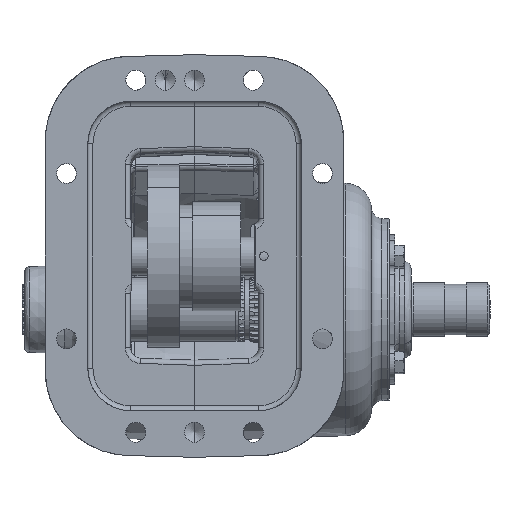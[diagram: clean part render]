
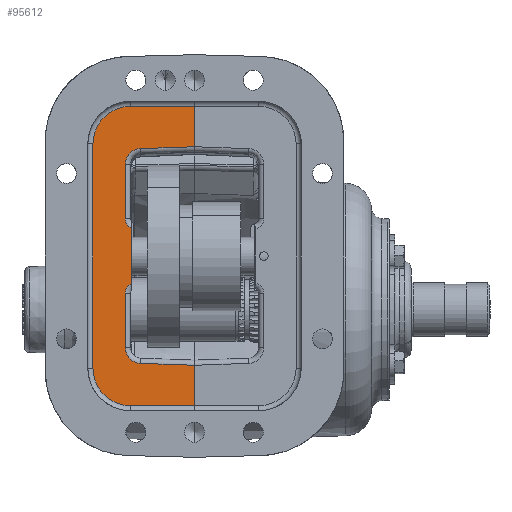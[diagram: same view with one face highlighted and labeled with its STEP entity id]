
A CAD part, front view. The second image highlights one B-rep face of the part: STEP entity #95612.
In plain terms, the highlighted planar face has unit normal (0, -1, 0).
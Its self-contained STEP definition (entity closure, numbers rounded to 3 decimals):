
#5700 = VERTEX_POINT ( 'NONE', #131187 ) ;
#5701 = VERTEX_POINT ( 'NONE', #131188 ) ;
#5702 = VERTEX_POINT ( 'NONE', #131189 ) ;
#5703 = VERTEX_POINT ( 'NONE', #131190 ) ;
#5707 = VERTEX_POINT ( 'NONE', #131196 ) ;
#5713 = VERTEX_POINT ( 'NONE', #131202 ) ;
#5719 = VERTEX_POINT ( 'NONE', #131210 ) ;
#5724 = VERTEX_POINT ( 'NONE', #131215 ) ;
#5739 = VERTEX_POINT ( 'NONE', #131239 ) ;
#5758 = VERTEX_POINT ( 'NONE', #131268 ) ;
#5759 = VERTEX_POINT ( 'NONE', #131269 ) ;
#5762 = VERTEX_POINT ( 'NONE', #131273 ) ;
#5766 = VERTEX_POINT ( 'NONE', #131279 ) ;
#5770 = VERTEX_POINT ( 'NONE', #131284 ) ;
#6181 = VERTEX_POINT ( 'NONE', #85882 ) ;
#6196 = VERTEX_POINT ( 'NONE', #85897 ) ;
#10097 = ORIENTED_EDGE ( 'NONE', *, *, #79036, .F. ) ;
#10099 = ORIENTED_EDGE ( 'NONE', *, *, #79007, .F. ) ;
#10101 = ORIENTED_EDGE ( 'NONE', *, *, #78082, .F. ) ;
#10103 = ORIENTED_EDGE ( 'NONE', *, *, #78076, .F. ) ;
#10105 = ORIENTED_EDGE ( 'NONE', *, *, #78070, .F. ) ;
#10107 = ORIENTED_EDGE ( 'NONE', *, *, #79037, .T. ) ;
#10109 = ORIENTED_EDGE ( 'NONE', *, *, #78166, .F. ) ;
#10111 = ORIENTED_EDGE ( 'NONE', *, *, #78161, .F. ) ;
#10113 = ORIENTED_EDGE ( 'NONE', *, *, #78168, .F. ) ;
#10115 = ORIENTED_EDGE ( 'NONE', *, *, #78174, .F. ) ;
#10117 = ORIENTED_EDGE ( 'NONE', *, *, #78180, .F. ) ;
#10119 = ORIENTED_EDGE ( 'NONE', *, *, #79038, .T. ) ;
#10121 = ORIENTED_EDGE ( 'NONE', *, *, #78100, .F. ) ;
#10123 = ORIENTED_EDGE ( 'NONE', *, *, #78096, .F. ) ;
#10125 = ORIENTED_EDGE ( 'NONE', *, *, #78090, .F. ) ;
#10127 = ORIENTED_EDGE ( 'NONE', *, *, #79022, .F. ) ;
#18485 = EDGE_LOOP ( 'NONE', ( #10097, #10099, #10101, #10103, #10105, #10107, #10109, #10111, #10113, #10115, #10117, #10119, #10121, #10123, #10125, #10127 ) ) ;
#18780 = LINE ( 'NONE', #83610, #18786 ) ;
#18786 = VECTOR ( 'NONE', #83613, 1000. ) ;
#18796 = CIRCLE ( 'NONE', #40696, 9.398 ) ;
#18814 = LINE ( 'NONE', #83691, #18823 ) ;
#18823 = VECTOR ( 'NONE', #83694, 1000. ) ;
#18855 = LINE ( 'NONE', #83734, #18861 ) ;
#18861 = VECTOR ( 'NONE', #83724, 1000. ) ;
#18877 = CIRCLE ( 'NONE', #40735, 9.398 ) ;
#18892 = LINE ( 'NONE', #83819, #18901 ) ;
#18901 = VECTOR ( 'NONE', #83822, 1000. ) ;
#19018 = CIRCLE ( 'NONE', #40836, 22.352 ) ;
#19041 = LINE ( 'NONE', #81130, #19057 ) ;
#19044 = LINE ( 'NONE', #81117, #19050 ) ;
#19050 = VECTOR ( 'NONE', #81122, 1000. ) ;
#19057 = VECTOR ( 'NONE', #81077, 1000. ) ;
#19063 = CIRCLE ( 'NONE', #40861, 22.352 ) ;
#19080 = LINE ( 'NONE', #81250, #19091 ) ;
#19091 = VECTOR ( 'NONE', #81236, 1000. ) ;
#20667 = CIRCLE ( 'NONE', #42109, 6.096 ) ;
#20698 = CIRCLE ( 'NONE', #42132, 6.096 ) ;
#20715 = LINE ( 'NONE', #135136, #20732 ) ;
#20718 = LINE ( 'NONE', #135147, #20724 ) ;
#20722 = LINE ( 'NONE', #135151, #20728 ) ;
#20724 = VECTOR ( 'NONE', #135150, 1000. ) ;
#20728 = VECTOR ( 'NONE', #135155, 1000. ) ;
#20732 = VECTOR ( 'NONE', #135157, 1000. ) ;
#40696 = AXIS2_PLACEMENT_3D ( 'NONE', #83657, #83659, #83661 ) ;
#40735 = AXIS2_PLACEMENT_3D ( 'NONE', #83794, #83796, #83798 ) ;
#40836 = AXIS2_PLACEMENT_3D ( 'NONE', #81068, #81071, #81074 ) ;
#40861 = AXIS2_PLACEMENT_3D ( 'NONE', #81195, #81198, #81201 ) ;
#41442 = CARTESIAN_POINT ( 'NONE',  ( -99.29, -133.047, -95.578 ) ) ;
#41448 = PLANE ( 'NONE',  #131061 ) ;
#41452 = DIRECTION ( 'NONE',  ( 0., 1., 0. ) ) ;
#41454 = DIRECTION ( 'NONE',  ( 0., 0., -1. ) ) ;
#42109 = AXIS2_PLACEMENT_3D ( 'NONE', #134836, #134838, #134840 ) ;
#42132 = AXIS2_PLACEMENT_3D ( 'NONE', #134999, #135000, #135002 ) ;
#48747 = FACE_OUTER_BOUND ( 'NONE', #18485, .T. ) ;
#78070 = EDGE_CURVE ( 'NONE', #5700, #5701, #18780, .T. ) ;
#78076 = EDGE_CURVE ( 'NONE', #5701, #5702, #18796, .T. ) ;
#78082 = EDGE_CURVE ( 'NONE', #5702, #5703, #18814, .T. ) ;
#78090 = EDGE_CURVE ( 'NONE', #5719, #5713, #18855, .T. ) ;
#78096 = EDGE_CURVE ( 'NONE', #5713, #5707, #18877, .T. ) ;
#78100 = EDGE_CURVE ( 'NONE', #5707, #5724, #18892, .T. ) ;
#78161 = EDGE_CURVE ( 'NONE', #5739, #5758, #19018, .T. ) ;
#78166 = EDGE_CURVE ( 'NONE', #5758, #5759, #19044, .T. ) ;
#78168 = EDGE_CURVE ( 'NONE', #5762, #5739, #19041, .T. ) ;
#78174 = EDGE_CURVE ( 'NONE', #5766, #5762, #19063, .T. ) ;
#78180 = EDGE_CURVE ( 'NONE', #5770, #5766, #19080, .T. ) ;
#79007 = EDGE_CURVE ( 'NONE', #5703, #6181, #20667, .T. ) ;
#79022 = EDGE_CURVE ( 'NONE', #6196, #5719, #20698, .T. ) ;
#79036 = EDGE_CURVE ( 'NONE', #6181, #6196, #20718, .T. ) ;
#79037 = EDGE_CURVE ( 'NONE', #5700, #5759, #20722, .T. ) ;
#79038 = EDGE_CURVE ( 'NONE', #5770, #5724, #20715, .T. ) ;
#81068 = CARTESIAN_POINT ( 'NONE',  ( -48.49, -133.047, 88.572 ) ) ;
#81071 = DIRECTION ( 'NONE',  ( 0., 1., 0. ) ) ;
#81074 = DIRECTION ( 'NONE',  ( 0., 0., -1. ) ) ;
#81077 = DIRECTION ( 'NONE',  ( 0., 0., 1. ) ) ;
#81117 = CARTESIAN_POINT ( 'NONE',  ( -10.39, -133.047, 110.924 ) ) ;
#81122 = DIRECTION ( 'NONE',  ( 1., 0., 0. ) ) ;
#81130 = CARTESIAN_POINT ( 'NONE',  ( -70.842, -133.047, 88.572 ) ) ;
#81195 = CARTESIAN_POINT ( 'NONE',  ( -48.49, -133.047, -44.778 ) ) ;
#81198 = DIRECTION ( 'NONE',  ( 0., 1., 0. ) ) ;
#81201 = DIRECTION ( 'NONE',  ( 0., 0., -1. ) ) ;
#81236 = DIRECTION ( 'NONE',  ( -1., 0., 0. ) ) ;
#81250 = CARTESIAN_POINT ( 'NONE',  ( -48.49, -133.047, -67.13 ) ) ;
#83610 = CARTESIAN_POINT ( 'NONE',  ( -42.468, -133.047, 85.803 ) ) ;
#83613 = DIRECTION ( 'NONE',  ( -0.999, 0., -0.035 ) ) ;
#83657 = CARTESIAN_POINT ( 'NONE',  ( -42.14, -133.047, 76.41 ) ) ;
#83659 = DIRECTION ( 'NONE',  ( 0., -1., 0. ) ) ;
#83661 = DIRECTION ( 'NONE',  ( 0., 0., -1. ) ) ;
#83691 = CARTESIAN_POINT ( 'NONE',  ( -51.538, -133.047, 44.059 ) ) ;
#83694 = DIRECTION ( 'NONE',  ( 0., 0., -1. ) ) ;
#83724 = DIRECTION ( 'NONE',  ( 0., 0., -1. ) ) ;
#83734 = CARTESIAN_POINT ( 'NONE',  ( -51.538, -133.047, -32.617 ) ) ;
#83794 = CARTESIAN_POINT ( 'NONE',  ( -42.14, -133.047, -32.617 ) ) ;
#83796 = DIRECTION ( 'NONE',  ( 0., -1., 0. ) ) ;
#83798 = DIRECTION ( 'NONE',  ( 0., 0., -1. ) ) ;
#83819 = CARTESIAN_POINT ( 'NONE',  ( -10.497, -133.047, -43.125 ) ) ;
#83822 = DIRECTION ( 'NONE',  ( 0.999, 0., -0.035 ) ) ;
#85882 = CARTESIAN_POINT ( 'NONE',  ( -47.728, -133.047, 38.408 ) ) ;
#85897 = CARTESIAN_POINT ( 'NONE',  ( -47.728, -133.047, 5.386 ) ) ;
#95612 = ADVANCED_FACE ( 'NONE', ( #48747 ), #41448, .F. ) ;
#131061 = AXIS2_PLACEMENT_3D ( 'NONE', #41442, #41452, #41454 ) ;
#131187 = CARTESIAN_POINT ( 'NONE',  ( -10.39, -133.047, 86.923 ) ) ;
#131188 = CARTESIAN_POINT ( 'NONE',  ( -42.468, -133.047, 85.803 ) ) ;
#131189 = CARTESIAN_POINT ( 'NONE',  ( -51.538, -133.047, 76.41 ) ) ;
#131190 = CARTESIAN_POINT ( 'NONE',  ( -51.538, -133.047, 44.059 ) ) ;
#131196 = CARTESIAN_POINT ( 'NONE',  ( -42.468, -133.047, -42.009 ) ) ;
#131202 = CARTESIAN_POINT ( 'NONE',  ( -51.538, -133.047, -32.617 ) ) ;
#131210 = CARTESIAN_POINT ( 'NONE',  ( -51.538, -133.047, -0.265 ) ) ;
#131215 = CARTESIAN_POINT ( 'NONE',  ( -10.39, -133.047, -43.129 ) ) ;
#131239 = CARTESIAN_POINT ( 'NONE',  ( -70.842, -133.047, 88.572 ) ) ;
#131268 = CARTESIAN_POINT ( 'NONE',  ( -48.49, -133.047, 110.924 ) ) ;
#131269 = CARTESIAN_POINT ( 'NONE',  ( -10.39, -133.047, 110.924 ) ) ;
#131273 = CARTESIAN_POINT ( 'NONE',  ( -70.842, -133.047, -44.778 ) ) ;
#131279 = CARTESIAN_POINT ( 'NONE',  ( -48.49, -133.047, -67.13 ) ) ;
#131284 = CARTESIAN_POINT ( 'NONE',  ( -10.39, -133.047, -67.13 ) ) ;
#134836 = CARTESIAN_POINT ( 'NONE',  ( -45.442, -133.047, 44.059 ) ) ;
#134838 = DIRECTION ( 'NONE',  ( 0., -1., 0. ) ) ;
#134840 = DIRECTION ( 'NONE',  ( 0., 0., -1. ) ) ;
#134999 = CARTESIAN_POINT ( 'NONE',  ( -45.442, -133.047, -0.265 ) ) ;
#135000 = DIRECTION ( 'NONE',  ( 0., -1., 0. ) ) ;
#135002 = DIRECTION ( 'NONE',  ( 0., 0., -1. ) ) ;
#135136 = CARTESIAN_POINT ( 'NONE',  ( -10.39, -133.047, -95.578 ) ) ;
#135147 = CARTESIAN_POINT ( 'NONE',  ( -47.728, -133.047, -95.578 ) ) ;
#135150 = DIRECTION ( 'NONE',  ( 0., 0., -1. ) ) ;
#135151 = CARTESIAN_POINT ( 'NONE',  ( -10.39, -133.047, -95.578 ) ) ;
#135155 = DIRECTION ( 'NONE',  ( 0., 0., 1. ) ) ;
#135157 = DIRECTION ( 'NONE',  ( 0., 0., 1. ) ) ;
